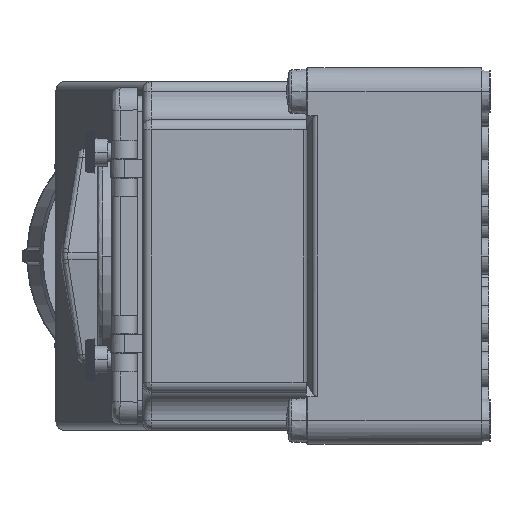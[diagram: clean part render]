
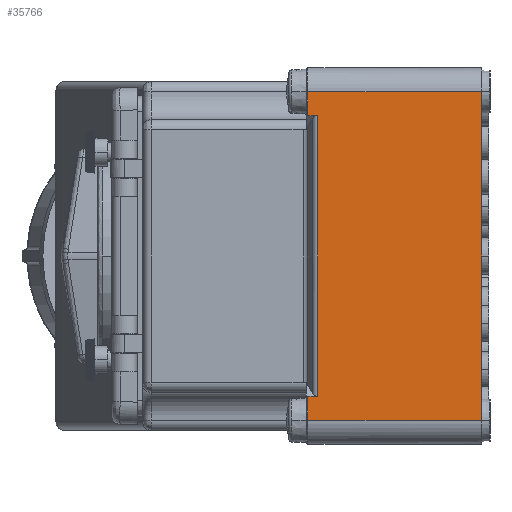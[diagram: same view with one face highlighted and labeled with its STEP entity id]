
A CAD part, left-side view. The second image highlights one B-rep face of the part: STEP entity #35766.
In plain terms, the highlighted planar face has unit normal (-1, 0, 0).
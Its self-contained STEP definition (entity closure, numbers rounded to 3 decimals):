
#327=DIRECTION('',(0.,0.,1.));
#328=VECTOR('',#327,117.);
#329=CARTESIAN_POINT('',(-182.,0.,-58.5));
#330=LINE('1791',#329,#328);
#702=DIRECTION('',(0.,1.,0.));
#703=VECTOR('',#702,61.89);
#704=CARTESIAN_POINT('',(-182.,0.,58.5));
#705=LINE('3208',#704,#703);
#720=DIRECTION('',(0.,0.,1.));
#721=VECTOR('',#720,8.5);
#722=CARTESIAN_POINT('',(-182.,61.89,-58.5));
#723=LINE('2833',#722,#721);
#724=DIRECTION('',(0.,0.,-1.));
#725=VECTOR('',#724,100.);
#726=CARTESIAN_POINT('',(-182.,58.349,50.));
#727=LINE('2717',#726,#725);
#728=DIRECTION('',(0.,0.,1.));
#729=VECTOR('',#728,8.5);
#730=CARTESIAN_POINT('',(-182.,61.89,50.));
#731=LINE('2823',#730,#729);
#741=DIRECTION('',(0.,-1.,0.));
#742=VECTOR('',#741,61.89);
#743=CARTESIAN_POINT('',(-182.,61.89,-58.5));
#744=LINE('3211',#743,#742);
#1391=CARTESIAN_POINT('',(-182.,61.89,50.));
#1400=DIRECTION('',(0.,-1.,0.));
#1401=VECTOR('',#1400,3.541);
#1402=CARTESIAN_POINT('',(-182.,61.89,50.));
#1403=LINE('3148',#1402,#1401);
#1463=CARTESIAN_POINT('',(-182.,61.89,-50.));
#1473=DIRECTION('',(0.,1.,0.));
#1474=VECTOR('',#1473,3.541);
#1475=CARTESIAN_POINT('',(-182.,58.349,-50.));
#1476=LINE('3149',#1475,#1474);
#30421=CARTESIAN_POINT('',(-182.,0.,-58.5));
#30422=CARTESIAN_POINT('',(-182.,0.,58.5));
#30423=VERTEX_POINT('',#30421);
#30424=VERTEX_POINT('',#30422);
#31558=CARTESIAN_POINT('',(-182.,58.349,50.));
#31559=CARTESIAN_POINT('',(-182.,58.349,-50.));
#31560=VERTEX_POINT('',#31558);
#31561=VERTEX_POINT('',#31559);
#31658=CARTESIAN_POINT('',(-182.,61.89,58.5));
#31659=VERTEX_POINT('',#31658);
#31660=VERTEX_POINT('',#1391);
#31676=VERTEX_POINT('',#1463);
#31677=CARTESIAN_POINT('',(-182.,61.89,-58.5));
#31678=VERTEX_POINT('',#31677);
#35745=CARTESIAN_POINT('',(-182.,0.,-58.5));
#35746=DIRECTION('',(-1.,0.,0.));
#35747=DIRECTION('',(0.,0.,1.));
#35748=AXIS2_PLACEMENT_3D('',#35745,#35746,#35747);
#35749=PLANE('46',#35748);
#35751=ORIENTED_EDGE('3211',*,*,#35750,.F.);
#35753=ORIENTED_EDGE('2833',*,*,#35752,.T.);
#35755=ORIENTED_EDGE('3149',*,*,#35754,.F.);
#35757=ORIENTED_EDGE('2717',*,*,#35756,.F.);
#35759=ORIENTED_EDGE('3148',*,*,#35758,.F.);
#35761=ORIENTED_EDGE('2823',*,*,#35760,.T.);
#35762=ORIENTED_EDGE('3208',*,*,#35720,.F.);
#35763=ORIENTED_EDGE('1791',*,*,#35370,.F.);
#35764=EDGE_LOOP('46',(#35751,#35753,#35755,#35757,#35759,#35761,#35762,
#35763));
#35765=FACE_OUTER_BOUND('46',#35764,.F.);
#35370=EDGE_CURVE('1791',#30423,#30424,#330,.T.);
#35720=EDGE_CURVE('3208',#30424,#31659,#705,.T.);
#35750=EDGE_CURVE('3211',#31678,#30423,#744,.T.);
#35752=EDGE_CURVE('2833',#31678,#31676,#723,.T.);
#35754=EDGE_CURVE('3149',#31561,#31676,#1476,.T.);
#35756=EDGE_CURVE('2717',#31560,#31561,#727,.T.);
#35758=EDGE_CURVE('3148',#31660,#31560,#1403,.T.);
#35760=EDGE_CURVE('2823',#31660,#31659,#731,.T.);
#35766=ADVANCED_FACE('46',(#35765),#35749,.T.);
